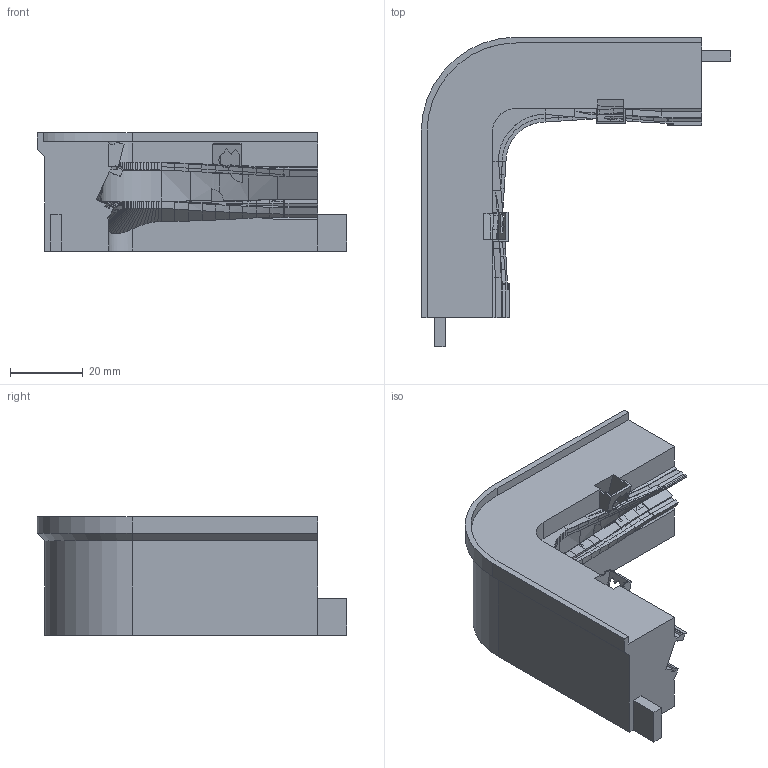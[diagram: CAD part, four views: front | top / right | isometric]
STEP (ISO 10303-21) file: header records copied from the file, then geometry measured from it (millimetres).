
FILE_DESCRIPTION(('Open CASCADE Model'),'2;1');
FILE_NAME('SOLID','2026-10-21T18:38:07',('Author'),('Open CASCADE'), 'Open CASCADE STEP processor 8.0','build123d','Unknown');
FILE_SCHEMA(('AUTOMOTIVE_DESIGN { 1 0 10303 214 1 1 1 1 }'));
Products named in the file (1): SOLID
Bounding box: 85.1 x 85.1 x 32.5 mm (x, y, z)
Volume: 68075.4 mm3; surface area: 16595.1 mm2
Topology: 1 solids, 1 shells, 680 faces, 1822 edges, 1138 vertices
Faces by surface type: bspline 348, plane 320, cylinder 11, cone 1
Entity records: 46419 total; most frequent: CARTESIAN_POINT 15128, DIRECTION 3869, ORIENTED_EDGE 3644, PCURVE 3644, DEFINITIONAL_REPRESENTATION 3644, LINE 3149, VECTOR 3149, B_SPLINE_CURVE_WITH_KNOTS 2275
